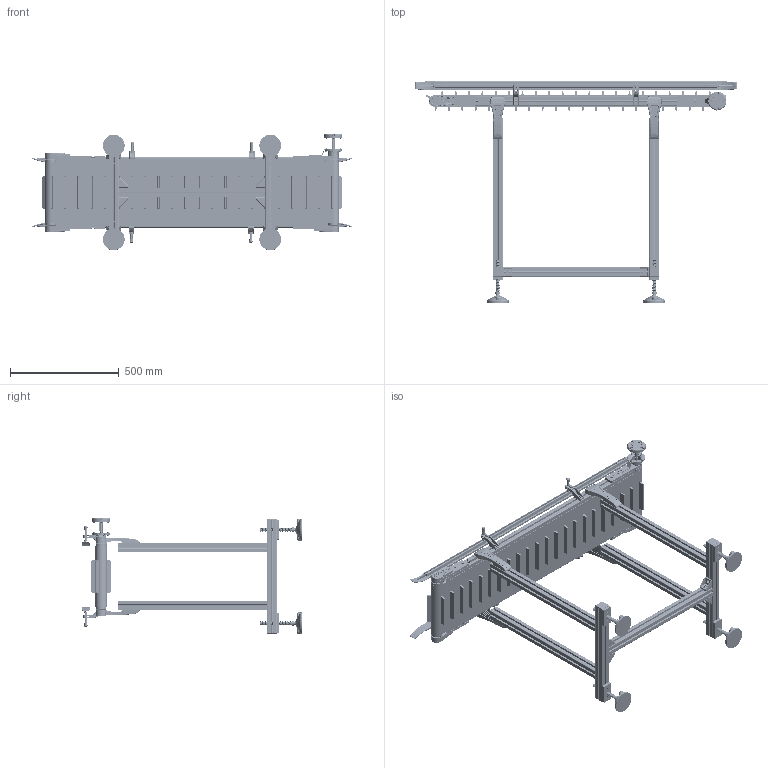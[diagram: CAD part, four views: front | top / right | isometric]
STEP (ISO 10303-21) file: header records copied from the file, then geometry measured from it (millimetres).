
FILE_DESCRIPTION (( 'STEP AP203' ), '1' );
FILE_NAME ('NASTRO_RETTILINEO_TAPPETO.step', '2026-04-29T10:04:07', ( 'Utente Windows' ), ( '' ), 'SwSTEP 2.0', 'SolidWorks 2024', '' );
FILE_SCHEMA (( 'CONFIG_CONTROL_DESIGN' ));
Length unit declared in the file: millimetre
Products named in the file (72): 2010.000.068; 084.301.000 VITI ALUSIC_084.301.009; 084.711.007; LAMIERA_STANDARD; 084.807.003_084.807.003<A macchina>; 084.807.002_084.807.002; 084.802.065_Default<A macchina>; 084.302.000 DADI ALUSIC 13x13-1_084.302.009; ANGOLARE_43; 084.803.018; 2010.000.068_L; VITI TCEI UNI 5931_M4x25 UNI 5931; VITI TE UNI 5739_M6x16 UNI 5739; BLOCCO_PERNO_50_RINVIO; 084.711.006_PER CAVA 8 PERNO ALTO 1; 084.711.005; 084.810.001; TAPPETO_STANDARD; SPONDA_Default<A macchina>; BLOCCO_RINVIO_50_STANDARD; FLANGIA_GAMBA_50; 084.303.001; 084.802.061; 2010.000.069; 084.711.006_L1; RULLO_50_Default<A macchina>; 084.802.017_084.802.017; 084.711.006_L2; TELAIO_50_STANDARD_Default<A macchina>; 084.712.005; TRAVERSA_50_Default<A macchina>; BLOCCO_TRAINO_50_STANDARD_30_DX; 084.302.000 DADI ALUSIC 13x13_084.302.004; 084.405.001; 084.808.012; 084.802.071; 084.301.000 VITI ALUSIC_084.301.003; VITI TSEI UNI 5933_M5x12 UNI 5933; 084.802.062; BLOCCO_TRAINO_50_STANDARD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
Assembly tree (169 placements, depth 4):
  NASTRO_RETTILINEO_TAPPETO
    TAPPETO_STANDARD
    TELAIO_50_STANDARD_Default<A macchina>
    LAMIERA_STANDARD
    RULLO_50_Default<A macchina>  x2
    BLOCCO_PERNO_50_30
      084.810.001
      084.811.001
      RONDELLE FASCIA LARGA UNI 6593_5.4x20 UNI 6593
      084.301.000 VITI ALUSIC_084.301.009
      CHIAVETTE_A 5x5x40 UNI 6604-69
      CHIAVETTE_A 5x5x20 UNI 6604-69
      14UNI7435
    BLOCCO_TRAINO_50_STANDARD_30_DX
      084.807.003_084.807.003<A macchina>
      084.802.017_084.802.017
      084.301.000 VITI ALUSIC_084.301.003  x2
      084.302.000 DADI ALUSIC 13x13-1_084.302.004  x2
      BLOCCO_BRACCIO_CH03P_VF30P
        084.808.012
        084.802.062
        084.802.061
        VITI TE UNI 5739_M6x16 UNI 5739  x4
        084.803.018
        VITI TCEI UNI 5931_M6x12 UNI 5931  x4
      084.802.065_Default<A macchina>
      VITI TCEI UNI 5931_M4x25 UNI 5931  x2
    BLOCCO_PERNO_50_RINVIO  x3
      084.811.004
      084.810.001
    BLOCCO_TRAINO_50_STANDARD
      084.807.002_084.807.002
      084.802.017_084.802.017
      084.301.000 VITI ALUSIC_084.301.003  x2
      084.302.000 DADI ALUSIC 13x13-1_084.302.004  x2
      VITI TSEI UNI 5933_M4x12 UNI 5933  x4
      084.802.071
      VITI TSEI UNI 5933 INOX_0412UNI5933A2  x2
    BLOCCO_RINVIO_50_STANDARD  x2
      084.807.002_084.807.002
      084.802.017_084.802.017
      084.802.008
      084.301.000 VITI ALUSIC_084.301.003
      084.302.000 DADI ALUSIC 13x13_084.302.004
      VITI TSEI UNI 5933_M4x10 UNI 5933
      084.802.071
    SPONDA_Default<A macchina>  x2
    084.711.006_PER CAVA 8 PERNO ALTO 1  x4
      084.711.006_L1
      084.711.006_L2
      084.711.007
      084.711.005
      084.711.010
      DADI ESAGONALI NORMALI UNI 5588_M6 UNI 5588
    084.712.005  x4
      084.712.005
      DADI ESAGONALI NORMALI UNI 5588_M6 UNI 5588
      GRANI A PUNTA CONICA UNI 5927_M6x16 UNI 5927
    GAMBE_D50_Default<A macchina>  x2
    FLANGIA_GAMBA_50
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Bounding box: 1478.94 x 1017.1 x 534.44 mm (x, y, z)
Volume: 11380473.3 mm3; surface area: 8988163.8 mm2
Topology: 344 solids, 348 shells, 16520 faces, 42597 edges, 26964 vertices
Faces by surface type: plane 6714, cylinder 5168, bspline 1796, cone 1459, torus 1177, sphere 206
Entity records: 246113 total; most frequent: CARTESIAN_POINT 85342, ORIENTED_EDGE 33196, DIRECTION 29387, EDGE_CURVE 16598, VERTEX_POINT 10663, AXIS2_PLACEMENT_3D 10089, VECTOR 9209, LINE 9209
